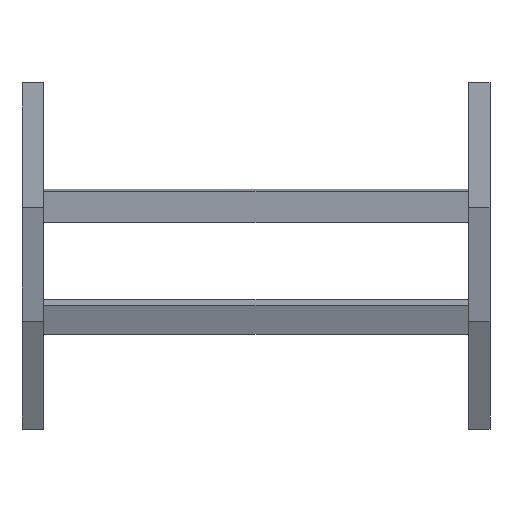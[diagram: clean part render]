
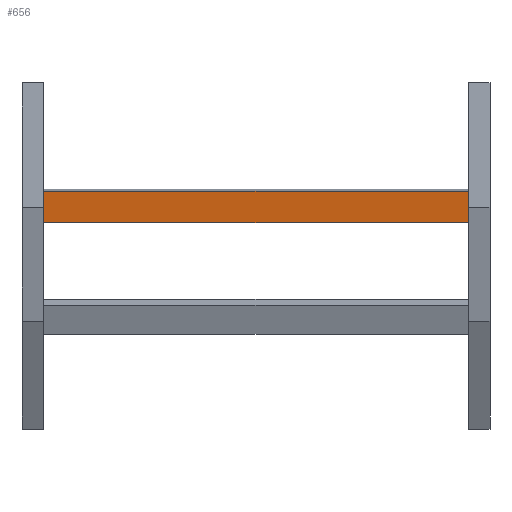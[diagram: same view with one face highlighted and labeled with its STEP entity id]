
A CAD part, front view. The second image highlights one B-rep face of the part: STEP entity #656.
In plain terms, the highlighted planar face has unit normal (0, -0.991, -0.131) as drawn and (0, -1, 0) by its records, which use the part's own axes.
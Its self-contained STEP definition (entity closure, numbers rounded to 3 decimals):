
#14 = VECTOR ( 'NONE', #591, 1000. ) ;
#26 = PLANE ( 'NONE',  #403 ) ;
#57 = ORIENTED_EDGE ( 'NONE', *, *, #1033, .T. ) ;
#73 = VECTOR ( 'NONE', #1010, 1000. ) ;
#115 = CARTESIAN_POINT ( 'NONE',  ( 298., 0., 20.25 ) ) ;
#132 = VECTOR ( 'NONE', #315, 1000. ) ;
#165 = EDGE_CURVE ( 'NONE', #1153, #913, #919, .T. ) ;
#233 = CARTESIAN_POINT ( 'NONE',  ( 298., 0., 20.25 ) ) ;
#309 = CARTESIAN_POINT ( 'NONE',  ( 298., 0., 20.25 ) ) ;
#315 = DIRECTION ( 'NONE',  ( 0., 0., -1. ) ) ;
#385 = VERTEX_POINT ( 'NONE', #309 ) ;
#403 = AXIS2_PLACEMENT_3D ( 'NONE', #115, #708, #586 ) ;
#435 = VERTEX_POINT ( 'NONE', #539 ) ;
#515 = CARTESIAN_POINT ( 'NONE',  ( 298., 0., -20.25 ) ) ;
#539 = CARTESIAN_POINT ( 'NONE',  ( 298., 0., -20.25 ) ) ;
#586 = DIRECTION ( 'NONE',  ( 0., 0., 1. ) ) ;
#591 = DIRECTION ( 'NONE',  ( -1., 0., 0. ) ) ;
#627 = CARTESIAN_POINT ( 'NONE',  ( -298., 0., 20.25 ) ) ;
#656 = ADVANCED_FACE ( 'NONE', ( #1146 ), #26, .F. ) ;
#708 = DIRECTION ( 'NONE',  ( 0., 1., 0. ) ) ;
#763 = ORIENTED_EDGE ( 'NONE', *, *, #993, .F. ) ;
#776 = LINE ( 'NONE', #896, #132 ) ;
#896 = CARTESIAN_POINT ( 'NONE',  ( 298., 0., 20.25 ) ) ;
#913 = VERTEX_POINT ( 'NONE', #914 ) ;
#914 = CARTESIAN_POINT ( 'NONE',  ( -298., 0., -20.25 ) ) ;
#919 = LINE ( 'NONE', #1369, #73 ) ;
#991 = DIRECTION ( 'NONE',  ( -1., 0., 0. ) ) ;
#993 = EDGE_CURVE ( 'NONE', #385, #435, #776, .T. ) ;
#1010 = DIRECTION ( 'NONE',  ( 0., 0., -1. ) ) ;
#1027 = VECTOR ( 'NONE', #991, 1000. ) ;
#1033 = EDGE_CURVE ( 'NONE', #385, #1153, #1144, .T. ) ;
#1042 = ORIENTED_EDGE ( 'NONE', *, *, #165, .T. ) ;
#1118 = ORIENTED_EDGE ( 'NONE', *, *, #1141, .F. ) ;
#1141 = EDGE_CURVE ( 'NONE', #435, #913, #1298, .T. ) ;
#1144 = LINE ( 'NONE', #233, #14 ) ;
#1146 = FACE_OUTER_BOUND ( 'NONE', #1392, .T. ) ;
#1153 = VERTEX_POINT ( 'NONE', #627 ) ;
#1298 = LINE ( 'NONE', #515, #1027 ) ;
#1369 = CARTESIAN_POINT ( 'NONE',  ( -298., 0., 20.25 ) ) ;
#1392 = EDGE_LOOP ( 'NONE', ( #1042, #1118, #763, #57 ) ) ;
